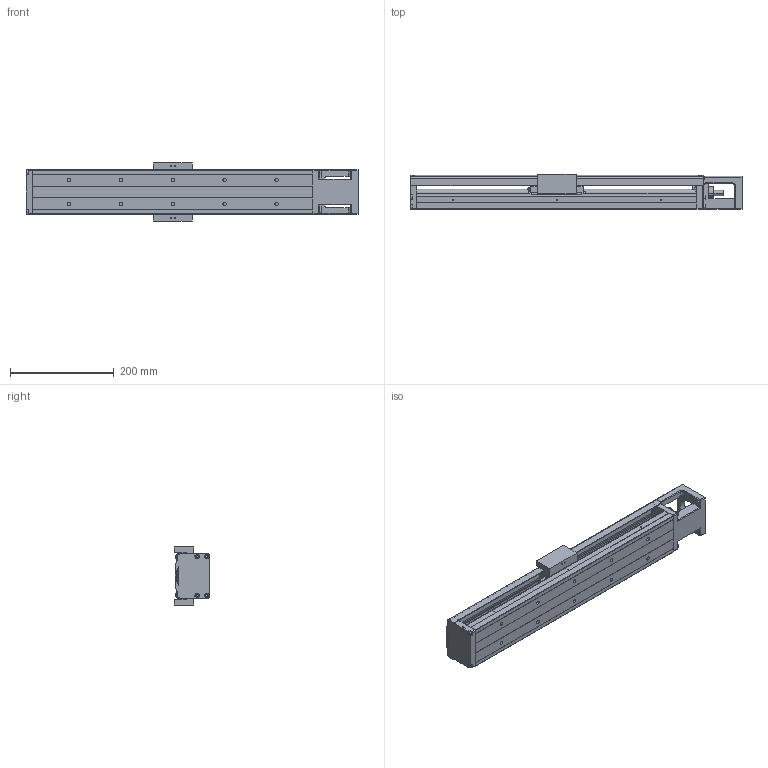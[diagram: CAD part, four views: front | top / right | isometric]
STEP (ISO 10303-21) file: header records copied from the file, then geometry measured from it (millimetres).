
FILE_DESCRIPTION (( 'STEP AP203' ), '1' );
FILE_NAME ('HKK86D20C-540A1-F0C.STEP', '2021-11-26T08:00:48', ( '' ), ( '' ), 'SwSTEP 2.0', 'SolidWorks 2018', '' );
FILE_SCHEMA (( 'CONFIG_CONTROL_DESIGN' ));
Length unit declared in the file: millimetre
Products named in the file (1): HKK86D20C-540A1-F0C
Bounding box: 640 x 68 x 112 mm (x, y, z)
Volume: 1623166.2 mm3; surface area: 418649.7 mm2
Topology: 2 solids, 11 shells, 820 faces, 2159 edges, 1364 vertices
Faces by surface type: plane 443, cylinder 277, cone 74, sphere 10, bspline 8, torus 8
Entity records: 25543 total; most frequent: CARTESIAN_POINT 5099, DIRECTION 4265, ORIENTED_EDGE 4194, EDGE_CURVE 2097, AXIS2_PLACEMENT_3D 1428, LINE 1409, VECTOR 1409, VERTEX_POINT 1363
